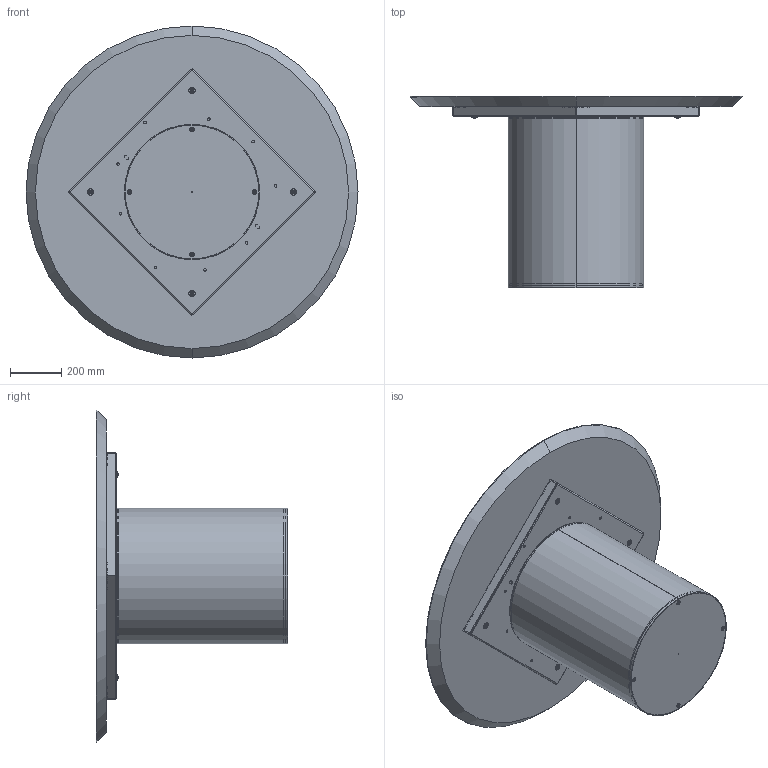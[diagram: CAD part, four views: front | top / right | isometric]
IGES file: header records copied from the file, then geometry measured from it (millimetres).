
Start section: SolidWorks IGES file using analytic representation for surfaces
Global section: file name: Y:\eforma\TECNICO\SOLIDWORKS\E-FORMA\1-TAVOLI\CILINDRO\02 parts\CI05W.IGS; native system: SolidWorks 2022; preprocessor: SolidWorks 2022; author: eforma.tech; date: 240808.090012; units: millimetre
Bounding box: 1300 x 750 x 1300 mm (x, y, z)
Volume: 57651211.3 mm3; surface area: 6873416.2 mm2
Topology: 23 solids, 23 shells, 862 faces, 2146 edges, 1304 vertices
Faces by surface type: revolution 482, plane 380
